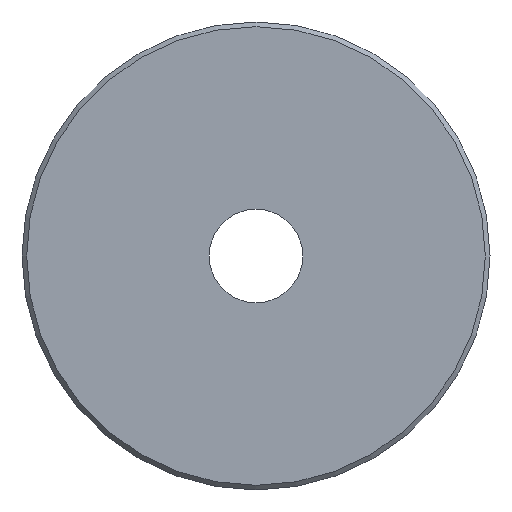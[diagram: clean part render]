
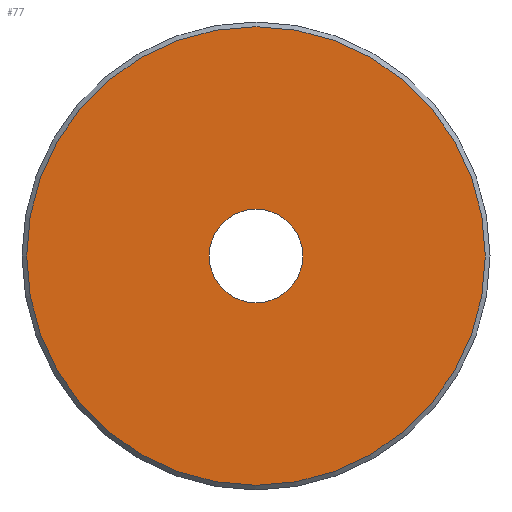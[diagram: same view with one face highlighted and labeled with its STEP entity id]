
A CAD part, front view. The second image highlights one B-rep face of the part: STEP entity #77.
In plain terms, the highlighted planar face has unit normal (0, -1, 0).
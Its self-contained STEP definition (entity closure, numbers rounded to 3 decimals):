
#21=FACE_BOUND('',#36,.T.);
#27=FACE_OUTER_BOUND('',#35,.T.);
#35=EDGE_LOOP('',(#65));
#36=EDGE_LOOP('',(#66));
#45=CIRCLE('',#87,20.);
#46=CIRCLE('',#89,98.);
#51=VERTEX_POINT('',#128);
#52=VERTEX_POINT('',#131);
#57=EDGE_CURVE('',#51,#51,#45,.T.);
#58=EDGE_CURVE('',#52,#52,#46,.T.);
#65=ORIENTED_EDGE('',*,*,#58,.F.);
#66=ORIENTED_EDGE('',*,*,#57,.T.);
#74=PLANE('',#88);
#77=ADVANCED_FACE('',(#27,#21),#74,.T.);
#87=AXIS2_PLACEMENT_3D('',#129,#105,#106);
#88=AXIS2_PLACEMENT_3D('',#130,#107,#108);
#89=AXIS2_PLACEMENT_3D('',#132,#109,#110);
#105=DIRECTION('center_axis',(0.,1.,0.));
#106=DIRECTION('ref_axis',(1.,0.,0.));
#107=DIRECTION('center_axis',(0.,-1.,0.));
#108=DIRECTION('ref_axis',(0.,0.,-1.));
#109=DIRECTION('center_axis',(0.,1.,0.));
#110=DIRECTION('ref_axis',(1.,0.,0.));
#128=CARTESIAN_POINT('',(91.35,6.687,0.));
#129=CARTESIAN_POINT('Origin',(111.35,6.687,0.));
#130=CARTESIAN_POINT('Origin',(13.35,6.687,0.));
#131=CARTESIAN_POINT('',(13.35,6.687,0.));
#132=CARTESIAN_POINT('Origin',(111.35,6.687,0.));
